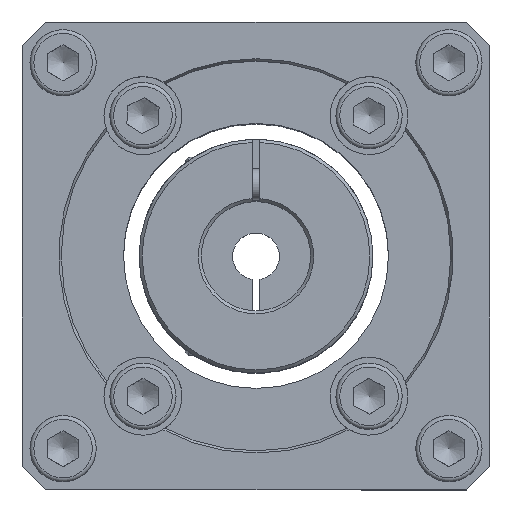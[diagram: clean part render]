
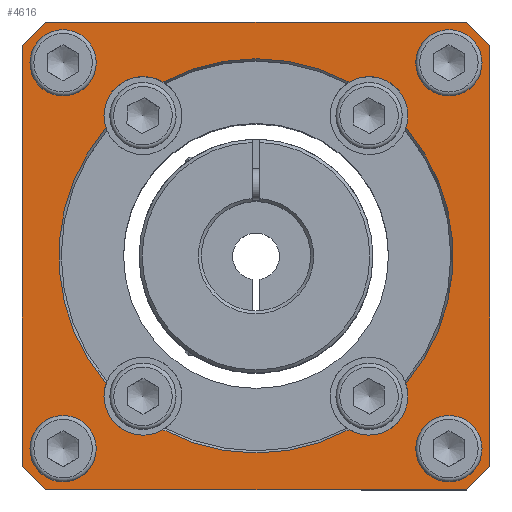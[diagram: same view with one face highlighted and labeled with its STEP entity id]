
A CAD part, top view. The second image highlights one B-rep face of the part: STEP entity #4616.
In plain terms, the highlighted planar face has unit normal (0, 0, 1).
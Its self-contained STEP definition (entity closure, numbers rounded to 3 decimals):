
#218=FACE_BOUND('',#1235,.T.);
#219=FACE_BOUND('',#1236,.T.);
#220=FACE_BOUND('',#1237,.T.);
#221=FACE_BOUND('',#1238,.T.);
#222=FACE_BOUND('',#1239,.T.);
#512=CIRCLE('',#5124,5.);
#513=CIRCLE('',#5125,25.289);
#514=CIRCLE('',#5126,5.);
#515=CIRCLE('',#5127,25.289);
#516=CIRCLE('',#5128,5.);
#517=CIRCLE('',#5129,25.289);
#518=CIRCLE('',#5130,5.);
#519=CIRCLE('',#5131,25.289);
#520=CIRCLE('',#5132,2.067);
#521=CIRCLE('',#5133,2.067);
#522=CIRCLE('',#5134,2.067);
#523=CIRCLE('',#5135,2.067);
#879=FACE_OUTER_BOUND('',#1234,.T.);
#1234=EDGE_LOOP('',(#4020,#4021,#4022,#4023,#4024,#4025,#4026,#4027));
#1235=EDGE_LOOP('',(#4028,#4029,#4030,#4031,#4032,#4033,#4034,#4035));
#1236=EDGE_LOOP('',(#4036));
#1237=EDGE_LOOP('',(#4037));
#1238=EDGE_LOOP('',(#4038));
#1239=EDGE_LOOP('',(#4039));
#1596=LINE('',#7988,#1898);
#1600=LINE('',#7996,#1902);
#1603=LINE('',#8002,#1905);
#1604=LINE('',#8004,#1906);
#1605=LINE('',#8006,#1907);
#1606=LINE('',#8008,#1908);
#1607=LINE('',#8010,#1909);
#1608=LINE('',#8011,#1910);
#1898=VECTOR('',#6373,4.243);
#1902=VECTOR('',#6379,54.);
#1905=VECTOR('',#6384,54.);
#1906=VECTOR('',#6385,4.243);
#1907=VECTOR('',#6386,54.);
#1908=VECTOR('',#6387,4.243);
#1909=VECTOR('',#6388,54.);
#1910=VECTOR('',#6389,4.243);
#2301=VERTEX_POINT('',#7986);
#2302=VERTEX_POINT('',#7987);
#2305=VERTEX_POINT('',#7995);
#2307=VERTEX_POINT('',#8001);
#2308=VERTEX_POINT('',#8003);
#2309=VERTEX_POINT('',#8005);
#2310=VERTEX_POINT('',#8007);
#2311=VERTEX_POINT('',#8009);
#2312=VERTEX_POINT('',#8012);
#2313=VERTEX_POINT('',#8013);
#2314=VERTEX_POINT('',#8015);
#2315=VERTEX_POINT('',#8017);
#2316=VERTEX_POINT('',#8019);
#2317=VERTEX_POINT('',#8021);
#2318=VERTEX_POINT('',#8023);
#2319=VERTEX_POINT('',#8025);
#2320=VERTEX_POINT('',#8028);
#2321=VERTEX_POINT('',#8030);
#2322=VERTEX_POINT('',#8032);
#2323=VERTEX_POINT('',#8034);
#2895=EDGE_CURVE('',#2301,#2302,#1596,.T.);
#2899=EDGE_CURVE('',#2302,#2305,#1600,.T.);
#2902=EDGE_CURVE('',#2307,#2301,#1603,.T.);
#2903=EDGE_CURVE('',#2308,#2307,#1604,.T.);
#2904=EDGE_CURVE('',#2309,#2308,#1605,.T.);
#2905=EDGE_CURVE('',#2310,#2309,#1606,.T.);
#2906=EDGE_CURVE('',#2311,#2310,#1607,.T.);
#2907=EDGE_CURVE('',#2305,#2311,#1608,.T.);
#2908=EDGE_CURVE('',#2312,#2313,#512,.T.);
#2909=EDGE_CURVE('',#2314,#2313,#513,.T.);
#2910=EDGE_CURVE('',#2314,#2315,#514,.T.);
#2911=EDGE_CURVE('',#2316,#2315,#515,.T.);
#2912=EDGE_CURVE('',#2316,#2317,#516,.T.);
#2913=EDGE_CURVE('',#2318,#2317,#517,.T.);
#2914=EDGE_CURVE('',#2318,#2319,#518,.T.);
#2915=EDGE_CURVE('',#2312,#2319,#519,.T.);
#2916=EDGE_CURVE('',#2320,#2320,#520,.T.);
#2917=EDGE_CURVE('',#2321,#2321,#521,.T.);
#2918=EDGE_CURVE('',#2322,#2322,#522,.T.);
#2919=EDGE_CURVE('',#2323,#2323,#523,.T.);
#4020=ORIENTED_EDGE('',*,*,#2895,.F.);
#4021=ORIENTED_EDGE('',*,*,#2902,.F.);
#4022=ORIENTED_EDGE('',*,*,#2903,.F.);
#4023=ORIENTED_EDGE('',*,*,#2904,.F.);
#4024=ORIENTED_EDGE('',*,*,#2905,.F.);
#4025=ORIENTED_EDGE('',*,*,#2906,.F.);
#4026=ORIENTED_EDGE('',*,*,#2907,.F.);
#4027=ORIENTED_EDGE('',*,*,#2899,.F.);
#4028=ORIENTED_EDGE('',*,*,#2908,.T.);
#4029=ORIENTED_EDGE('',*,*,#2909,.F.);
#4030=ORIENTED_EDGE('',*,*,#2910,.T.);
#4031=ORIENTED_EDGE('',*,*,#2911,.F.);
#4032=ORIENTED_EDGE('',*,*,#2912,.T.);
#4033=ORIENTED_EDGE('',*,*,#2913,.F.);
#4034=ORIENTED_EDGE('',*,*,#2914,.T.);
#4035=ORIENTED_EDGE('',*,*,#2915,.F.);
#4036=ORIENTED_EDGE('',*,*,#2916,.T.);
#4037=ORIENTED_EDGE('',*,*,#2917,.T.);
#4038=ORIENTED_EDGE('',*,*,#2918,.T.);
#4039=ORIENTED_EDGE('',*,*,#2919,.T.);
#4379=PLANE('',#5123);
#4616=ADVANCED_FACE('',(#879,#218,#219,#220,#221,#222),#4379,.T.);
#5123=AXIS2_PLACEMENT_3D('',#8000,#6382,#6383);
#5124=AXIS2_PLACEMENT_3D('',#8014,#6390,#6391);
#5125=AXIS2_PLACEMENT_3D('',#8016,#6392,#6393);
#5126=AXIS2_PLACEMENT_3D('',#8018,#6394,#6395);
#5127=AXIS2_PLACEMENT_3D('',#8020,#6396,#6397);
#5128=AXIS2_PLACEMENT_3D('',#8022,#6398,#6399);
#5129=AXIS2_PLACEMENT_3D('',#8024,#6400,#6401);
#5130=AXIS2_PLACEMENT_3D('',#8026,#6402,#6403);
#5131=AXIS2_PLACEMENT_3D('',#8027,#6404,#6405);
#5132=AXIS2_PLACEMENT_3D('',#8029,#6406,#6407);
#5133=AXIS2_PLACEMENT_3D('',#8031,#6408,#6409);
#5134=AXIS2_PLACEMENT_3D('',#8033,#6410,#6411);
#5135=AXIS2_PLACEMENT_3D('',#8035,#6412,#6413);
#6373=DIRECTION('',(0.707,-0.707,0.));
#6379=DIRECTION('',(0.,-1.,0.));
#6382=DIRECTION('center_axis',(0.,0.,1.));
#6383=DIRECTION('ref_axis',(1.,0.,0.));
#6384=DIRECTION('',(1.,0.,0.));
#6385=DIRECTION('',(0.707,0.707,0.));
#6386=DIRECTION('',(0.,1.,0.));
#6387=DIRECTION('',(-0.707,0.707,0.));
#6388=DIRECTION('',(-1.,0.,0.));
#6389=DIRECTION('',(-0.707,-0.707,0.));
#6390=DIRECTION('center_axis',(0.,0.,-1.));
#6391=DIRECTION('ref_axis',(1.,0.,0.));
#6392=DIRECTION('center_axis',(0.,0.,1.));
#6393=DIRECTION('ref_axis',(0.,-1.,0.));
#6394=DIRECTION('center_axis',(0.,0.,-1.));
#6395=DIRECTION('ref_axis',(1.,0.,0.));
#6396=DIRECTION('center_axis',(0.,0.,1.));
#6397=DIRECTION('ref_axis',(0.,-1.,0.));
#6398=DIRECTION('center_axis',(0.,0.,-1.));
#6399=DIRECTION('ref_axis',(1.,0.,0.));
#6400=DIRECTION('center_axis',(0.,0.,1.));
#6401=DIRECTION('ref_axis',(0.,-1.,0.));
#6402=DIRECTION('center_axis',(0.,0.,-1.));
#6403=DIRECTION('ref_axis',(1.,0.,0.));
#6404=DIRECTION('center_axis',(0.,0.,1.));
#6405=DIRECTION('ref_axis',(0.,-1.,0.));
#6406=DIRECTION('center_axis',(0.,0.,-1.));
#6407=DIRECTION('ref_axis',(1.,0.,0.));
#6408=DIRECTION('center_axis',(0.,0.,-1.));
#6409=DIRECTION('ref_axis',(0.,1.,0.));
#6410=DIRECTION('center_axis',(0.,0.,-1.));
#6411=DIRECTION('ref_axis',(-1.,0.,0.));
#6412=DIRECTION('center_axis',(0.,0.,-1.));
#6413=DIRECTION('ref_axis',(0.,-1.,0.));
#7986=CARTESIAN_POINT('',(27.,30.,20.5));
#7987=CARTESIAN_POINT('',(30.,27.,20.5));
#7988=CARTESIAN_POINT('',(28.5,28.5,20.5));
#7995=CARTESIAN_POINT('',(30.,-27.,20.5));
#7996=CARTESIAN_POINT('',(30.,30.,20.5));
#8000=CARTESIAN_POINT('Origin',(0.,0.,20.5));
#8001=CARTESIAN_POINT('',(-27.,30.,20.5));
#8002=CARTESIAN_POINT('',(-30.,30.,20.5));
#8003=CARTESIAN_POINT('',(-30.,27.,20.5));
#8004=CARTESIAN_POINT('',(-28.5,28.5,20.5));
#8005=CARTESIAN_POINT('',(-30.,-27.,20.5));
#8006=CARTESIAN_POINT('',(-30.,-30.,20.5));
#8007=CARTESIAN_POINT('',(-27.,-30.,20.5));
#8008=CARTESIAN_POINT('',(-28.5,-28.5,20.5));
#8009=CARTESIAN_POINT('',(27.,-30.,20.5));
#8010=CARTESIAN_POINT('',(30.,-30.,20.5));
#8011=CARTESIAN_POINT('',(28.5,-28.5,20.5));
#8012=CARTESIAN_POINT('',(-19.241,16.411,20.5));
#8013=CARTESIAN_POINT('',(-11.938,22.294,20.5));
#8014=CARTESIAN_POINT('Origin',(-14.5,18.,20.5));
#8015=CARTESIAN_POINT('',(11.938,22.294,20.5));
#8016=CARTESIAN_POINT('Origin',(0.,0.,20.5));
#8017=CARTESIAN_POINT('',(19.241,16.411,20.5));
#8018=CARTESIAN_POINT('Origin',(14.5,18.,20.5));
#8019=CARTESIAN_POINT('',(19.241,-16.411,20.5));
#8020=CARTESIAN_POINT('Origin',(0.,0.,20.5));
#8021=CARTESIAN_POINT('',(11.938,-22.294,20.5));
#8022=CARTESIAN_POINT('Origin',(14.5,-18.,20.5));
#8023=CARTESIAN_POINT('',(-11.938,-22.294,20.5));
#8024=CARTESIAN_POINT('Origin',(0.,0.,20.5));
#8025=CARTESIAN_POINT('',(-19.241,-16.411,20.5));
#8026=CARTESIAN_POINT('Origin',(-14.5,-18.,20.5));
#8027=CARTESIAN_POINT('Origin',(0.,0.,20.5));
#8028=CARTESIAN_POINT('',(-22.682,24.749,20.5));
#8029=CARTESIAN_POINT('Origin',(-24.749,24.749,20.5));
#8030=CARTESIAN_POINT('',(-24.749,-22.682,20.5));
#8031=CARTESIAN_POINT('Origin',(-24.749,-24.749,20.5));
#8032=CARTESIAN_POINT('',(22.682,-24.749,20.5));
#8033=CARTESIAN_POINT('Origin',(24.749,-24.749,20.5));
#8034=CARTESIAN_POINT('',(24.749,22.682,20.5));
#8035=CARTESIAN_POINT('Origin',(24.749,24.749,20.5));
